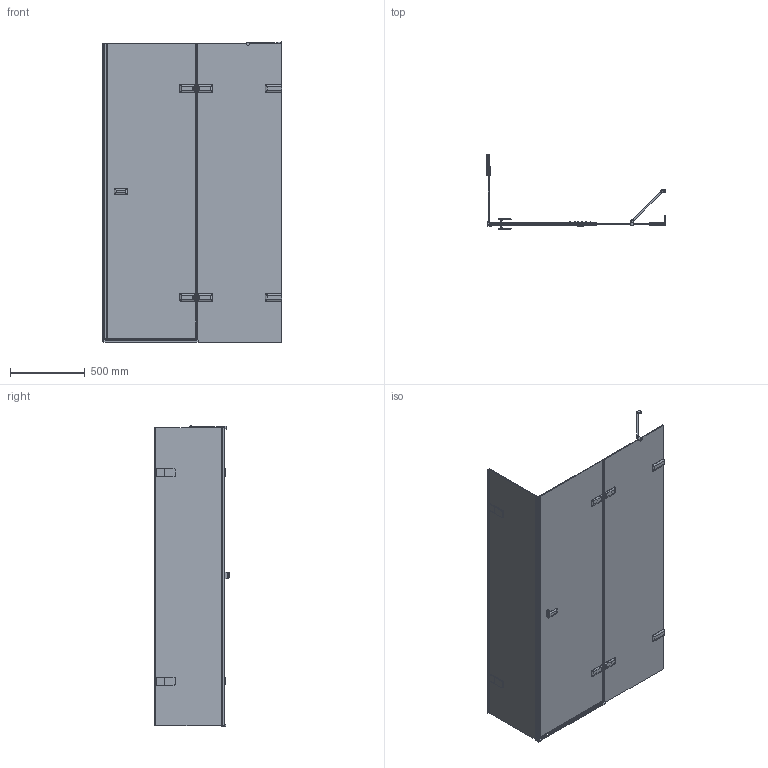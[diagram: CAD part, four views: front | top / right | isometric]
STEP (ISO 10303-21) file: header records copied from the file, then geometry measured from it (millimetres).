
FILE_DESCRIPTION(/* description */ (''),/* implementation_level */ '2;1');
FILE_NAME(/* name */ 'D:\16\TREND RECTAN GK-863GC-2722\TREND RECTAN GK-863GC-2722 правая модель\TREND RECTAN GK-863GC-2722 ПРАВАЯ-3D.stp',/* time_stamp */ '2022-01-16T16:33:51+03:00',/* author */ ('User'),/* organization */ (''),/* preprocessor_version */ 'ST-DEVELOPER v15.2',/* originating_system */ 'Autodesk Inventor 2014',/* authorisation */ '');
FILE_SCHEMA (('CONFIG_CONTROL_DESIGN'));
Products named in the file (1): TREND RECTAN GK-863GC-2722 \X2\041F0420041004120410042F
\X0\-3D
Bounding box: 1202.6 x 499.78 x 2013.75 mm (x, y, z)
Volume: 20890566.1 mm3; surface area: 7044730.8 mm2
Topology: 14 solids, 16 shells, 1667 faces, 4267 edges, 2647 vertices
Faces by surface type: plane 982, cylinder 431, bspline 154, torus 46, cone 36, sphere 18
Full cylindrical faces by diameter (mm): 4 x2, 5 x6, 5.2 x2, 6 x6, 7.2 x4, 8 x2, 9 x8, 11 x2, 13 x4, 15 x1, 16 x4, 20 x2, 26 x1, 40 x2
Entity records: 68408 total; most frequent: CARTESIAN_POINT 27456, ORIENTED_EDGE 8208, DIRECTION 7923, EDGE_CURVE 4102, AXIS2_PLACEMENT_3D 2703, VERTEX_POINT 2614, LINE 2517, VECTOR 2517
